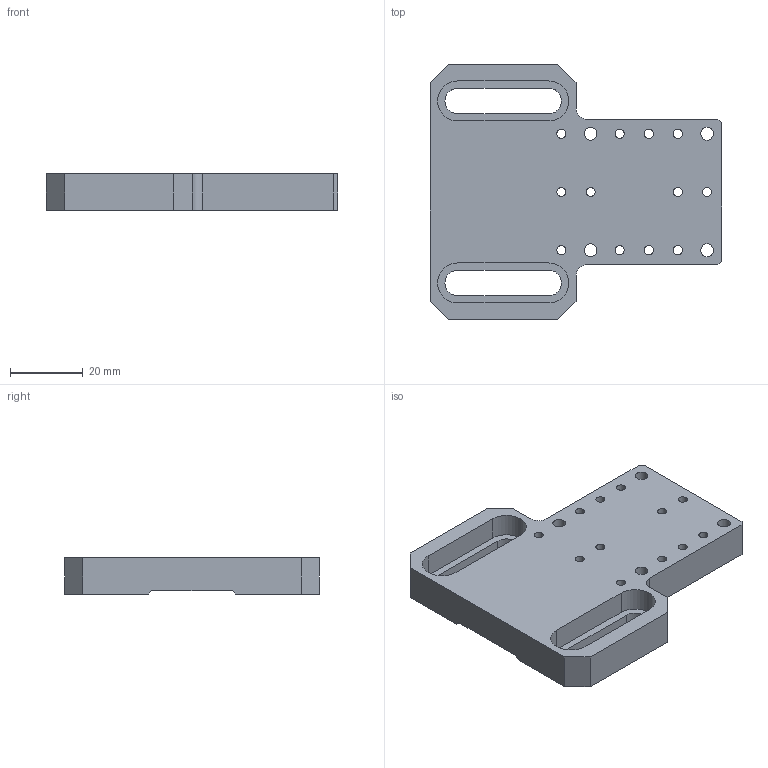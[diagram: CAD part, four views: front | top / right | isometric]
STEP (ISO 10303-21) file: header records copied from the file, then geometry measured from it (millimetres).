
FILE_DESCRIPTION( ( 'STEP AP203' ), '1' );
FILE_NAME( 'C:/3D-Trans/3D_A24-7+071218.stp', '2007-12-18T05:02:56', ( ' ' ), ( ' ' ), 'XStep 1.0', ' ', ' ' );
FILE_SCHEMA( ( 'CONFIG_CONTROL_DESIGN' ) );
Length unit declared in the file: millimetre
Products named in the file (1): 1
Bounding box: 80 x 70 x 10 mm (x, y, z)
Volume: 34131.1 mm3; surface area: 13602.4 mm2
Topology: 1 solids, 1 shells, 64 faces, 172 edges, 116 vertices
Faces by surface type: plane 34, cylinder 30
Full cylindrical faces by diameter (mm): 2.5 x12, 3.5 x4, 6 x4
Entity records: 2008 total; most frequent: DIRECTION 338, CARTESIAN_POINT 325, ORIENTED_EDGE 296, EDGE_CURVE 148, EDGE_LOOP 126, AXIS2_PLACEMENT_3D 125, VERTEX_POINT 112, LINE 88
